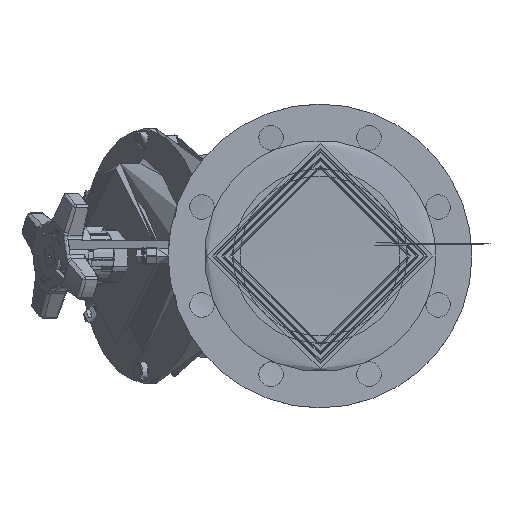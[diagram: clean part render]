
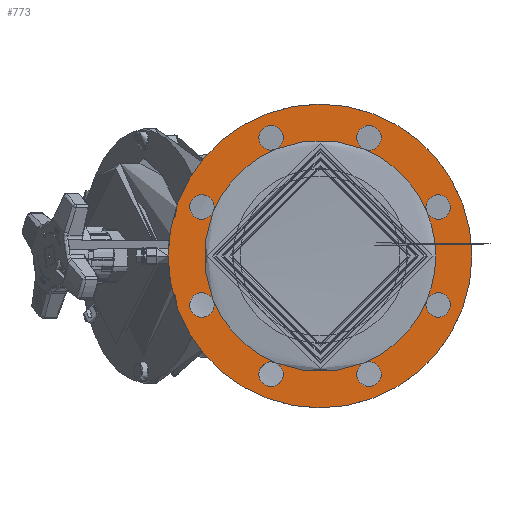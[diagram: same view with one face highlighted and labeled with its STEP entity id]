
A CAD part, left-side view. The second image highlights one B-rep face of the part: STEP entity #773.
In plain terms, the highlighted planar face has unit normal (-1, 0, 0).
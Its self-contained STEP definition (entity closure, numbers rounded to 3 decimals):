
#773=ADVANCED_FACE('',(#19636,#19638,#19640,#19642,#19644,#19646,#19648,#19650,#19652,
#19654),#19656,.T.);
#19636=FACE_BOUND('',#19637,.T.);
#19637=EDGE_LOOP('',(#92898));
#19638=FACE_BOUND('',#19639,.T.);
#19639=EDGE_LOOP('',(#92899));
#19640=FACE_BOUND('',#19641,.T.);
#19641=EDGE_LOOP('',(#92900));
#19642=FACE_BOUND('',#19643,.T.);
#19643=EDGE_LOOP('',(#92901));
#19644=FACE_BOUND('',#19645,.T.);
#19645=EDGE_LOOP('',(#92902));
#19646=FACE_BOUND('',#19647,.T.);
#19647=EDGE_LOOP('',(#92903));
#19648=FACE_BOUND('',#19649,.T.);
#19649=EDGE_LOOP('',(#92904));
#19650=FACE_BOUND('',#19651,.T.);
#19651=EDGE_LOOP('',(#92905));
#19652=FACE_BOUND('',#19653,.T.);
#19653=EDGE_LOOP('',(#92906));
#19654=FACE_BOUND('',#19655,.T.);
#19655=EDGE_LOOP('',(#92907));
#19656=PLANE('',#19657);
#19657=AXIS2_PLACEMENT_3D('',#19658,#19659,#19660);
#19658=CARTESIAN_POINT('',(49.422,195.375,-11.321));
#19659=DIRECTION('',(-1.,0.,0.));
#19660=DIRECTION('',(0.,-1.,0.));
#92898=ORIENTED_EDGE('',*,*,#101665,.F.);
#92899=ORIENTED_EDGE('',*,*,#101678,.T.);
#92900=ORIENTED_EDGE('',*,*,#101679,.T.);
#92901=ORIENTED_EDGE('',*,*,#101680,.T.);
#92902=ORIENTED_EDGE('',*,*,#101681,.T.);
#92903=ORIENTED_EDGE('',*,*,#101682,.T.);
#92904=ORIENTED_EDGE('',*,*,#101683,.T.);
#92905=ORIENTED_EDGE('',*,*,#101684,.T.);
#92906=ORIENTED_EDGE('',*,*,#101685,.T.);
#92907=ORIENTED_EDGE('',*,*,#101686,.T.);
#101665=EDGE_CURVE('',#106210,#106210,#106211,.T.);
#101678=EDGE_CURVE('',#106230,#106230,#106231,.T.);
#101679=EDGE_CURVE('',#106232,#106232,#106233,.T.);
#101680=EDGE_CURVE('',#106234,#106234,#106235,.T.);
#101681=EDGE_CURVE('',#106236,#106236,#106237,.T.);
#101682=EDGE_CURVE('',#106238,#106238,#106239,.T.);
#101683=EDGE_CURVE('',#106240,#106240,#106241,.T.);
#101684=EDGE_CURVE('',#106242,#106242,#106243,.T.);
#101685=EDGE_CURVE('',#106244,#106244,#106245,.T.);
#101686=EDGE_CURVE('',#106246,#106246,#106247,.T.);
#106210=VERTEX_POINT('',#114761);
#106211=CIRCLE('',#114762,142.5);
#106230=VERTEX_POINT('',#114913);
#106231=CIRCLE('',#114914,108.5);
#106232=VERTEX_POINT('',#114918);
#106233=CIRCLE('',#114919,11.5);
#106234=VERTEX_POINT('',#114923);
#106235=CIRCLE('',#114924,11.5);
#106236=VERTEX_POINT('',#114928);
#106237=CIRCLE('',#114929,11.5);
#106238=VERTEX_POINT('',#114933);
#106239=CIRCLE('',#114934,11.5);
#106240=VERTEX_POINT('',#114938);
#106241=CIRCLE('',#114939,11.5);
#106242=VERTEX_POINT('',#114943);
#106243=CIRCLE('',#114944,11.5);
#106244=VERTEX_POINT('',#114948);
#106245=CIRCLE('',#114949,11.5);
#106246=VERTEX_POINT('',#114953);
#106247=CIRCLE('',#114954,11.5);
#114761=CARTESIAN_POINT('',(49.422,301.985,-11.321));
#114762=AXIS2_PLACEMENT_3D('',#114763,#114764,#114765);
#114763=CARTESIAN_POINT('',(49.422,159.485,-11.321));
#114764=DIRECTION('',(1.,0.,0.));
#114765=DIRECTION('',(0.,-1.,0.));
#114913=CARTESIAN_POINT('',(49.422,50.985,-11.321));
#114914=AXIS2_PLACEMENT_3D('',#114915,#114916,#114917);
#114915=CARTESIAN_POINT('',(49.422,159.485,-11.321));
#114916=DIRECTION('',(1.,0.,0.));
#114917=DIRECTION('',(0.,-1.,0.));
#114918=CARTESIAN_POINT('',(49.422,102.063,99.545));
#114919=AXIS2_PLACEMENT_3D('',#114920,#114921,#114922);
#114920=CARTESIAN_POINT('',(49.422,113.563,99.545));
#114921=DIRECTION('',(1.,0.,0.));
#114922=DIRECTION('',(0.,1.,0.));
#114923=CARTESIAN_POINT('',(49.422,193.908,99.545));
#114924=AXIS2_PLACEMENT_3D('',#114925,#114926,#114927);
#114925=CARTESIAN_POINT('',(49.422,205.408,99.545));
#114926=DIRECTION('',(1.,0.,0.));
#114927=DIRECTION('',(0.,1.,0.));
#114928=CARTESIAN_POINT('',(49.422,258.851,34.601));
#114929=AXIS2_PLACEMENT_3D('',#114930,#114931,#114932);
#114930=CARTESIAN_POINT('',(49.422,270.351,34.601));
#114931=DIRECTION('',(1.,0.,0.));
#114932=DIRECTION('',(0.,1.,0.));
#114933=CARTESIAN_POINT('',(49.422,258.851,-57.243));
#114934=AXIS2_PLACEMENT_3D('',#114935,#114936,#114937);
#114935=CARTESIAN_POINT('',(49.422,270.351,-57.243));
#114936=DIRECTION('',(1.,0.,0.));
#114937=DIRECTION('',(0.,1.,0.));
#114938=CARTESIAN_POINT('',(49.422,193.908,-122.186));
#114939=AXIS2_PLACEMENT_3D('',#114940,#114941,#114942);
#114940=CARTESIAN_POINT('',(49.422,205.408,-122.186));
#114941=DIRECTION('',(1.,0.,0.));
#114942=DIRECTION('',(0.,1.,0.));
#114943=CARTESIAN_POINT('',(49.422,102.063,-122.186));
#114944=AXIS2_PLACEMENT_3D('',#114945,#114946,#114947);
#114945=CARTESIAN_POINT('',(49.422,113.563,-122.186));
#114946=DIRECTION('',(1.,0.,0.));
#114947=DIRECTION('',(0.,1.,0.));
#114948=CARTESIAN_POINT('',(49.422,37.12,34.601));
#114949=AXIS2_PLACEMENT_3D('',#114950,#114951,#114952);
#114950=CARTESIAN_POINT('',(49.422,48.62,34.601));
#114951=DIRECTION('',(1.,0.,0.));
#114952=DIRECTION('',(0.,1.,0.));
#114953=CARTESIAN_POINT('',(49.422,37.12,-57.243));
#114954=AXIS2_PLACEMENT_3D('',#114955,#114956,#114957);
#114955=CARTESIAN_POINT('',(49.422,48.62,-57.243));
#114956=DIRECTION('',(1.,0.,0.));
#114957=DIRECTION('',(0.,1.,0.));
